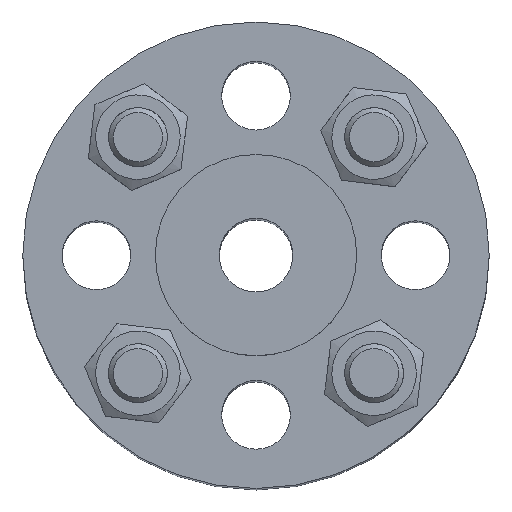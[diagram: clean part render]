
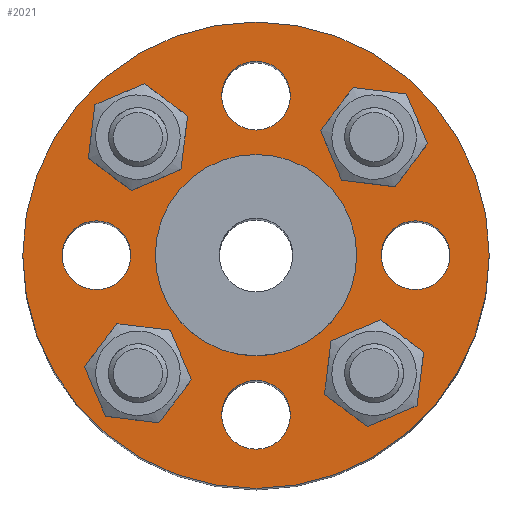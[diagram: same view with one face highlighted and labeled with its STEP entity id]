
A CAD part, top view. The second image highlights one B-rep face of the part: STEP entity #2021.
In plain terms, the highlighted planar face has unit normal (0, 0, 1).
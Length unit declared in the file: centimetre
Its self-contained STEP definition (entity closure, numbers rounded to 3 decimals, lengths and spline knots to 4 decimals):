
#290=PLANE('',#2218);
#354=FACE_BOUND('',#682,.T.);
#355=FACE_BOUND('',#683,.T.);
#356=FACE_BOUND('',#684,.T.);
#357=FACE_BOUND('',#685,.T.);
#358=FACE_BOUND('',#686,.T.);
#359=FACE_BOUND('',#687,.T.);
#360=FACE_BOUND('',#688,.T.);
#361=FACE_BOUND('',#689,.T.);
#362=FACE_BOUND('',#690,.T.);
#500=FACE_OUTER_BOUND('',#681,.T.);
#681=EDGE_LOOP('',(#1621));
#682=EDGE_LOOP('',(#1622));
#683=EDGE_LOOP('',(#1623));
#684=EDGE_LOOP('',(#1624));
#685=EDGE_LOOP('',(#1625));
#686=EDGE_LOOP('',(#1626));
#687=EDGE_LOOP('',(#1627));
#688=EDGE_LOOP('',(#1628));
#689=EDGE_LOOP('',(#1629));
#690=EDGE_LOOP('',(#1630));
#800=CIRCLE('',#2106,0.86);
#812=CIRCLE('',#2144,0.86);
#820=CIRCLE('',#2172,0.86);
#828=CIRCLE('',#2196,0.86);
#830=CIRCLE('',#2205,0.7);
#832=CIRCLE('',#2208,0.7);
#834=CIRCLE('',#2211,0.7);
#836=CIRCLE('',#2214,0.7);
#838=CIRCLE('',#2217,4.75);
#839=CIRCLE('',#2219,2.05);
#912=VERTEX_POINT('',#2950);
#948=VERTEX_POINT('',#3108);
#980=VERTEX_POINT('',#3252);
#1000=VERTEX_POINT('',#3338);
#1002=VERTEX_POINT('',#3355);
#1004=VERTEX_POINT('',#3360);
#1006=VERTEX_POINT('',#3365);
#1008=VERTEX_POINT('',#3370);
#1010=VERTEX_POINT('',#3375);
#1011=VERTEX_POINT('',#3378);
#1102=EDGE_CURVE('',#912,#912,#800,.T.);
#1150=EDGE_CURVE('',#948,#948,#812,.T.);
#1194=EDGE_CURVE('',#980,#980,#820,.T.);
#1220=EDGE_CURVE('',#1000,#1000,#828,.T.);
#1228=EDGE_CURVE('',#1002,#1002,#830,.T.);
#1230=EDGE_CURVE('',#1004,#1004,#832,.T.);
#1232=EDGE_CURVE('',#1006,#1006,#834,.T.);
#1234=EDGE_CURVE('',#1008,#1008,#836,.T.);
#1236=EDGE_CURVE('',#1010,#1010,#838,.T.);
#1237=EDGE_CURVE('',#1011,#1011,#839,.T.);
#1621=ORIENTED_EDGE('',*,*,#1236,.T.);
#1622=ORIENTED_EDGE('',*,*,#1102,.T.);
#1623=ORIENTED_EDGE('',*,*,#1150,.T.);
#1624=ORIENTED_EDGE('',*,*,#1194,.T.);
#1625=ORIENTED_EDGE('',*,*,#1220,.T.);
#1626=ORIENTED_EDGE('',*,*,#1228,.T.);
#1627=ORIENTED_EDGE('',*,*,#1230,.T.);
#1628=ORIENTED_EDGE('',*,*,#1232,.T.);
#1629=ORIENTED_EDGE('',*,*,#1234,.T.);
#1630=ORIENTED_EDGE('',*,*,#1237,.F.);
#2021=ADVANCED_FACE('',(#500,#354,#355,#356,#357,#358,#359,#360,#361,#362),
#290,.T.);
#2106=AXIS2_PLACEMENT_3D('',#2951,#2363,#2364);
#2144=AXIS2_PLACEMENT_3D('',#3109,#2451,#2452);
#2172=AXIS2_PLACEMENT_3D('',#3253,#2519,#2520);
#2196=AXIS2_PLACEMENT_3D('',#3339,#2573,#2574);
#2205=AXIS2_PLACEMENT_3D('',#3356,#2597,#2598);
#2208=AXIS2_PLACEMENT_3D('',#3361,#2603,#2604);
#2211=AXIS2_PLACEMENT_3D('',#3366,#2609,#2610);
#2214=AXIS2_PLACEMENT_3D('',#3371,#2615,#2616);
#2217=AXIS2_PLACEMENT_3D('',#3376,#2621,#2622);
#2218=AXIS2_PLACEMENT_3D('',#3377,#2623,#2624);
#2219=AXIS2_PLACEMENT_3D('',#3379,#2625,#2626);
#2363=DIRECTION('center_axis',(0.,0.,
-1.));
#2364=DIRECTION('ref_axis',(0.391,-0.92,0.));
#2451=DIRECTION('center_axis',(0.,0.,
-1.));
#2452=DIRECTION('ref_axis',(0.92,0.391,0.));
#2519=DIRECTION('center_axis',(0.,0.,
-1.));
#2520=DIRECTION('ref_axis',(-0.391,0.92,0.));
#2573=DIRECTION('center_axis',(0.,0.,
-1.));
#2574=DIRECTION('ref_axis',(-0.92,-0.391,0.));
#2597=DIRECTION('center_axis',(0.,0.,
-1.));
#2598=DIRECTION('ref_axis',(-1.,0.,0.));
#2603=DIRECTION('center_axis',(0.,0.,
-1.));
#2604=DIRECTION('ref_axis',(0.,1.,0.));
#2609=DIRECTION('center_axis',(0.,0.,
-1.));
#2610=DIRECTION('ref_axis',(1.,0.,0.));
#2615=DIRECTION('center_axis',(0.,0.,
-1.));
#2616=DIRECTION('ref_axis',(0.,-1.,0.));
#2621=DIRECTION('center_axis',(0.,0.,
1.));
#2622=DIRECTION('ref_axis',(0.,-1.,0.));
#2623=DIRECTION('center_axis',(0.,0.,
1.));
#2624=DIRECTION('ref_axis',(0.,-1.,0.));
#2625=DIRECTION('center_axis',(0.,0.,
1.));
#2626=DIRECTION('ref_axis',(0.,-1.,0.));
#2950=CARTESIAN_POINT('',(-2.0681,-3.1958,8.85));
#2951=CARTESIAN_POINT('Origin',(-2.4042,-2.4042,8.85));
#3108=CARTESIAN_POINT('',(3.1958,-2.0681,8.85));
#3109=CARTESIAN_POINT('Origin',(2.4042,-2.4042,8.85));
#3252=CARTESIAN_POINT('',(2.0681,3.1958,8.85));
#3253=CARTESIAN_POINT('Origin',(2.4042,2.4042,8.85));
#3338=CARTESIAN_POINT('',(-3.1958,2.0681,8.85));
#3339=CARTESIAN_POINT('Origin',(-2.4042,2.4042,8.85));
#3355=CARTESIAN_POINT('',(0.7,-3.25,8.85));
#3356=CARTESIAN_POINT('Origin',(0.,-3.25,
8.85));
#3360=CARTESIAN_POINT('',(-2.55,0.,8.85));
#3361=CARTESIAN_POINT('Origin',(-3.25,0.,8.85));
#3365=CARTESIAN_POINT('',(0.7,3.25,8.85));
#3366=CARTESIAN_POINT('Origin',(0.,3.25,8.85));
#3370=CARTESIAN_POINT('',(3.95,0.,8.85));
#3371=CARTESIAN_POINT('Origin',(3.25,0.,8.85));
#3375=CARTESIAN_POINT('',(4.75,0.,8.85));
#3376=CARTESIAN_POINT('Origin',(0.,0.,
8.85));
#3377=CARTESIAN_POINT('Origin',(2.05,0.,8.85));
#3378=CARTESIAN_POINT('',(2.05,0.,8.85));
#3379=CARTESIAN_POINT('Origin',(0.,0.,
8.85));
